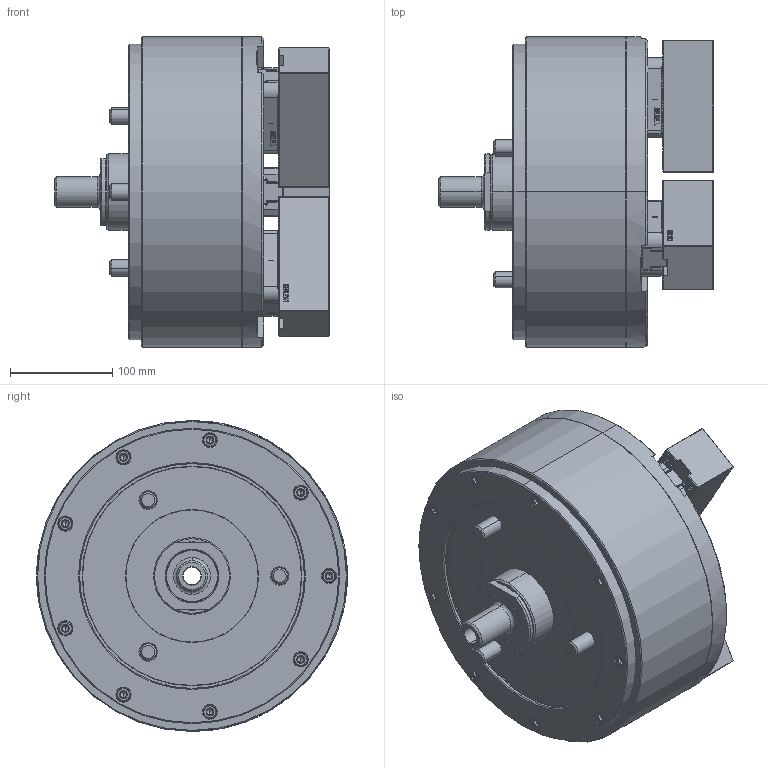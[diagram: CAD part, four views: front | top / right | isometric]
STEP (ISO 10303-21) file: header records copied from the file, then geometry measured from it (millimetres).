
FILE_DESCRIPTION (( 'STEP AP214' ), '1' );
FILE_NAME ('DL212_OC.STEP', '2019-11-29T06:50:37', ( '' ), ( '' ), 'SwSTEP 2.0', 'SolidWorks 2017', '' );
FILE_SCHEMA (( 'AUTOMOTIVE_DESIGN' ));
Length unit declared in the file: millimetre
Products named in the file (5): 結合_OD; 0030114040; 61P458879; 61P851659; DL212_OC
Assembly tree (13 placements, depth 2):
  DL212_OC
    61P851659  x3
    61P458879  x3
    0030114040  x6
    結合_OD
Bounding box: 268.59 x 304 x 304 mm (x, y, z)
Volume: 10162240.2 mm3; surface area: 579146.3 mm2
Topology: 13 solids, 13 shells, 6373 faces, 17498 edges, 11373 vertices
Faces by surface type: plane 4461, cylinder 747, bspline 686, cone 451, torus 28
Entity records: 171526 total; most frequent: CARTESIAN_POINT 55989, ORIENTED_EDGE 26028, DIRECTION 20560, EDGE_CURVE 13014, VECTOR 9586, LINE 9586, VERTEX_POINT 8478, AXIS2_PLACEMENT_3D 5487
